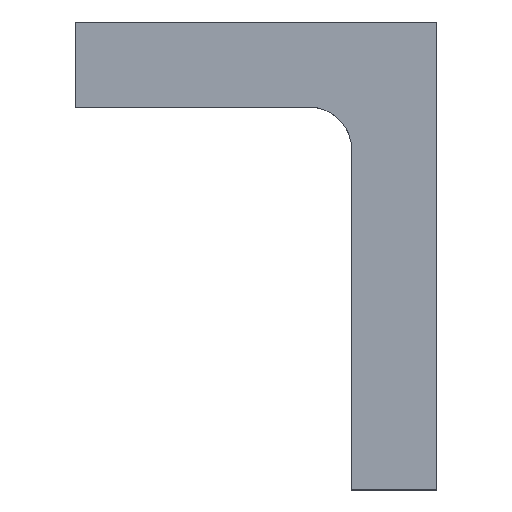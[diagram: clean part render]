
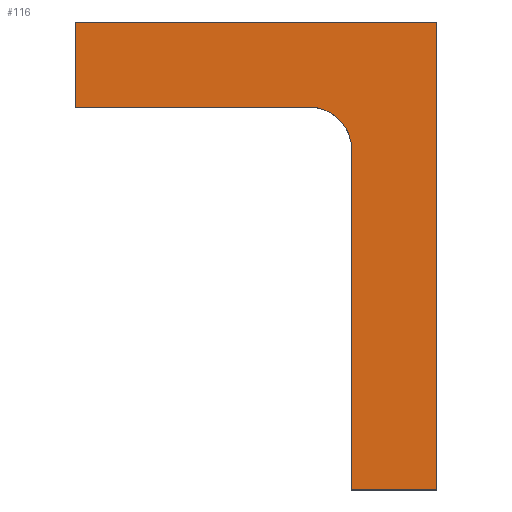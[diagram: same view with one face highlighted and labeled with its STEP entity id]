
A CAD part, top view. The second image highlights one B-rep face of the part: STEP entity #116.
In plain terms, the highlighted planar face has unit normal (0, 0, 1).
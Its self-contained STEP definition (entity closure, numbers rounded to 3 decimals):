
#116=ADVANCED_FACE('',(#247),#249,.T.);
#247=FACE_BOUND('',#248,.T.);
#248=EDGE_LOOP('',(#356,#357,#358,#359,#360,#361,#362));
#249=PLANE('',#250);
#250=AXIS2_PLACEMENT_3D('',#251,#252,#253);
#251=CARTESIAN_POINT('',(0.,0.,8.));
#252=DIRECTION('',(0.,0.,1.));
#253=DIRECTION('',(-1.,0.,0.));
#356=ORIENTED_EDGE('',*,*,#401,.T.);
#357=ORIENTED_EDGE('',*,*,#391,.T.);
#358=ORIENTED_EDGE('',*,*,#411,.T.);
#359=ORIENTED_EDGE('',*,*,#396,.T.);
#360=ORIENTED_EDGE('',*,*,#412,.T.);
#361=ORIENTED_EDGE('',*,*,#413,.T.);
#362=ORIENTED_EDGE('',*,*,#414,.T.);
#391=EDGE_CURVE('',#430,#428,#431,.T.);
#396=EDGE_CURVE('',#440,#438,#441,.T.);
#401=EDGE_CURVE('',#449,#430,#450,.T.);
#411=EDGE_CURVE('',#428,#440,#465,.T.);
#412=EDGE_CURVE('',#438,#466,#467,.T.);
#413=EDGE_CURVE('',#466,#468,#469,.T.);
#414=EDGE_CURVE('',#468,#449,#470,.T.);
#428=VERTEX_POINT('',#495);
#430=VERTEX_POINT('',#499);
#431=LINE('',#500,#501);
#438=VERTEX_POINT('',#516);
#440=VERTEX_POINT('',#520);
#441=LINE('',#521,#522);
#449=VERTEX_POINT('',#565);
#450=CIRCLE('',#566,10.);
#465=LINE('',#648,#649);
#466=VERTEX_POINT('',#651);
#467=LINE('',#652,#653);
#468=VERTEX_POINT('',#655);
#469=LINE('',#656,#657);
#470=LINE('',#659,#660);
#495=CARTESIAN_POINT('',(-20.,-110.,8.));
#499=CARTESIAN_POINT('',(-20.,-30.,8.));
#500=CARTESIAN_POINT('',(-20.,-30.,8.));
#501=VECTOR('',#502,1.);
#502=DIRECTION('',(0.,-1.,0.));
#516=CARTESIAN_POINT('',(0.,0.,8.));
#520=CARTESIAN_POINT('',(0.,-110.,8.));
#521=CARTESIAN_POINT('',(0.,-110.,8.));
#522=VECTOR('',#523,1.);
#523=DIRECTION('',(0.,1.,0.));
#565=CARTESIAN_POINT('',(-30.,-20.,8.));
#566=AXIS2_PLACEMENT_3D('',#567,#568,#569);
#567=CARTESIAN_POINT('',(-30.,-30.,8.));
#568=DIRECTION('',(0.,0.,-1.));
#569=DIRECTION('',(0.,1.,0.));
#648=CARTESIAN_POINT('',(-20.,-110.,8.));
#649=VECTOR('',#650,1.);
#650=DIRECTION('',(1.,0.,0.));
#651=CARTESIAN_POINT('',(-85.,0.,8.));
#652=CARTESIAN_POINT('',(0.,0.,8.));
#653=VECTOR('',#654,1.);
#654=DIRECTION('',(-1.,0.,0.));
#655=CARTESIAN_POINT('',(-85.,-20.,8.));
#656=CARTESIAN_POINT('',(-85.,0.,8.));
#657=VECTOR('',#658,1.);
#658=DIRECTION('',(0.,-1.,0.));
#659=CARTESIAN_POINT('',(-85.,-20.,8.));
#660=VECTOR('',#661,1.);
#661=DIRECTION('',(1.,0.,0.));
